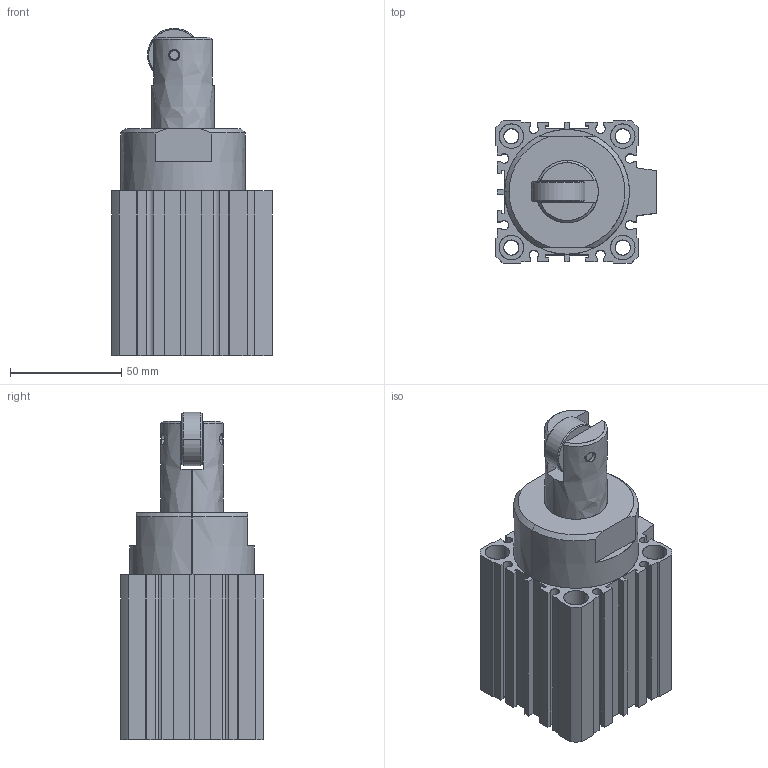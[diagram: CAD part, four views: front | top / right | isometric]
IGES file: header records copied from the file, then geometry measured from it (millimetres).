
Start section: SolidWorks IGES file using analytic representation for surfaces
Global section: file name: C:\Documents and Settings\admin\Bureau\stage de yaya\Plan Philippe Pince\PINCE\VUSB\pièces en 3D\VUSB STEP\ELOC-3DWG\ELOC-50-20-TIGE SORTIE.IGS; native system: SolidWorks 2007; preprocessor: SolidWorks 2007; author: admin; date: 080331.091337; units: millimetre
Bounding box: 72 x 64 x 147 mm (x, y, z)
Surface area: 70558.3 mm2 (no closed solid volume)
Topology: 0 solids, 0 shells, 891 faces, 11093 edges, 11133 vertices
Faces by surface type: bspline 809, revolution 82
